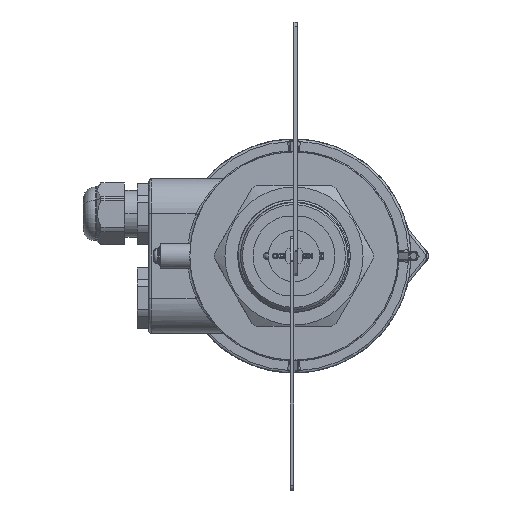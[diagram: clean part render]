
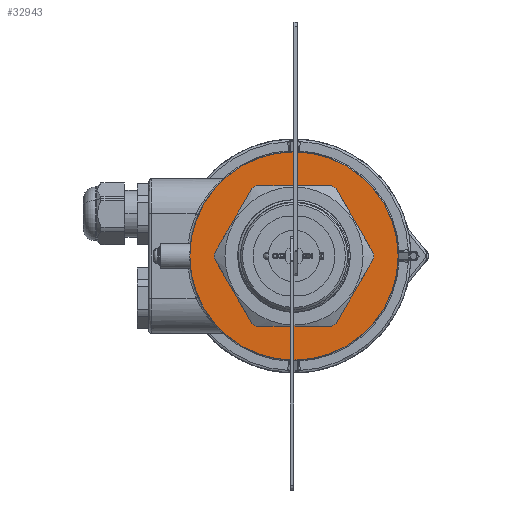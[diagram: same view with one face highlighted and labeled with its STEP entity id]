
A CAD part, front view. The second image highlights one B-rep face of the part: STEP entity #32943.
In plain terms, the highlighted planar face has unit normal (0, -1, 0).
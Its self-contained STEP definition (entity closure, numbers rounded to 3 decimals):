
#3887 = CARTESIAN_POINT ( 'NONE',  ( 0., 281.2, -18. ) ) ;
#4352 = EDGE_LOOP ( 'NONE', ( #46218, #18536 ) ) ;
#4428 = AXIS2_PLACEMENT_3D ( 'NONE', #40489, #5405, #21046 ) ;
#4849 = ORIENTED_EDGE ( 'NONE', *, *, #20575, .T. ) ;
#5405 = DIRECTION ( 'NONE',  ( 0., 1., 0. ) ) ;
#6963 = ORIENTED_EDGE ( 'NONE', *, *, #26806, .T. ) ;
#10395 = VERTEX_POINT ( 'NONE', #47359 ) ;
#10938 = VERTEX_POINT ( 'NONE', #47071 ) ;
#12272 = CARTESIAN_POINT ( 'NONE',  ( 44.5, 281.2, 0. ) ) ;
#12974 = AXIS2_PLACEMENT_3D ( 'NONE', #34231, #49824, #14774 ) ;
#13468 = CIRCLE ( 'NONE', #42074, 44.5 ) ;
#14677 = VERTEX_POINT ( 'NONE', #34910 ) ;
#14774 = DIRECTION ( 'NONE',  ( 0., 0., 1. ) ) ;
#15407 = DIRECTION ( 'NONE',  ( 0., 0., 1. ) ) ;
#16115 = FACE_OUTER_BOUND ( 'NONE', #4352, .T. ) ;
#16164 = CARTESIAN_POINT ( 'NONE',  ( 0., 281.2, 0. ) ) ;
#18536 = ORIENTED_EDGE ( 'NONE', *, *, #27473, .F. ) ;
#20471 = VERTEX_POINT ( 'NONE', #3887 ) ;
#20575 = EDGE_CURVE ( 'NONE', #20471, #14677, #44258, .T. ) ;
#21046 = DIRECTION ( 'NONE',  ( 0., 0., 1. ) ) ;
#21466 = EDGE_LOOP ( 'NONE', ( #6963, #4849 ) ) ;
#22205 = AXIS2_PLACEMENT_3D ( 'NONE', #16164, #31789, #47394 ) ;
#26516 = CIRCLE ( 'NONE', #4428, 18. ) ;
#26806 = EDGE_CURVE ( 'NONE', #14677, #20471, #26516, .T. ) ;
#27473 = EDGE_CURVE ( 'NONE', #10938, #10395, #13468, .T. ) ;
#27895 = DIRECTION ( 'NONE',  ( 0., 1., 0. ) ) ;
#31742 = FACE_BOUND ( 'NONE', #21466, .T. ) ;
#31789 = DIRECTION ( 'NONE',  ( 0., 1., 0. ) ) ;
#32943 = ADVANCED_FACE ( 'NONE', ( #16115, #31742 ), #47341, .F. ) ;
#34231 = CARTESIAN_POINT ( 'NONE',  ( 0., 281.2, 0. ) ) ;
#34861 = CARTESIAN_POINT ( 'NONE',  ( 0., 281.2, 0. ) ) ;
#34910 = CARTESIAN_POINT ( 'NONE',  ( 0., 281.2, 18. ) ) ;
#35055 = CIRCLE ( 'NONE', #12974, 44.5 ) ;
#40489 = CARTESIAN_POINT ( 'NONE',  ( 0., 281.2, 0. ) ) ;
#41762 = EDGE_CURVE ( 'NONE', #10395, #10938, #35055, .T. ) ;
#42074 = AXIS2_PLACEMENT_3D ( 'NONE', #34861, #50452, #15407 ) ;
#43482 = DIRECTION ( 'NONE',  ( 0., 0., 1. ) ) ;
#44258 = CIRCLE ( 'NONE', #22205, 18. ) ;
#46218 = ORIENTED_EDGE ( 'NONE', *, *, #41762, .F. ) ;
#47071 = CARTESIAN_POINT ( 'NONE',  ( 0., 281.2, -44.5 ) ) ;
#47341 = PLANE ( 'NONE',  #49575 ) ;
#47359 = CARTESIAN_POINT ( 'NONE',  ( 0., 281.2, 44.5 ) ) ;
#47394 = DIRECTION ( 'NONE',  ( 0., 0., 1. ) ) ;
#49575 = AXIS2_PLACEMENT_3D ( 'NONE', #12272, #27895, #43482 ) ;
#49824 = DIRECTION ( 'NONE',  ( 0., 1., 0. ) ) ;
#50452 = DIRECTION ( 'NONE',  ( 0., 1., 0. ) ) ;
